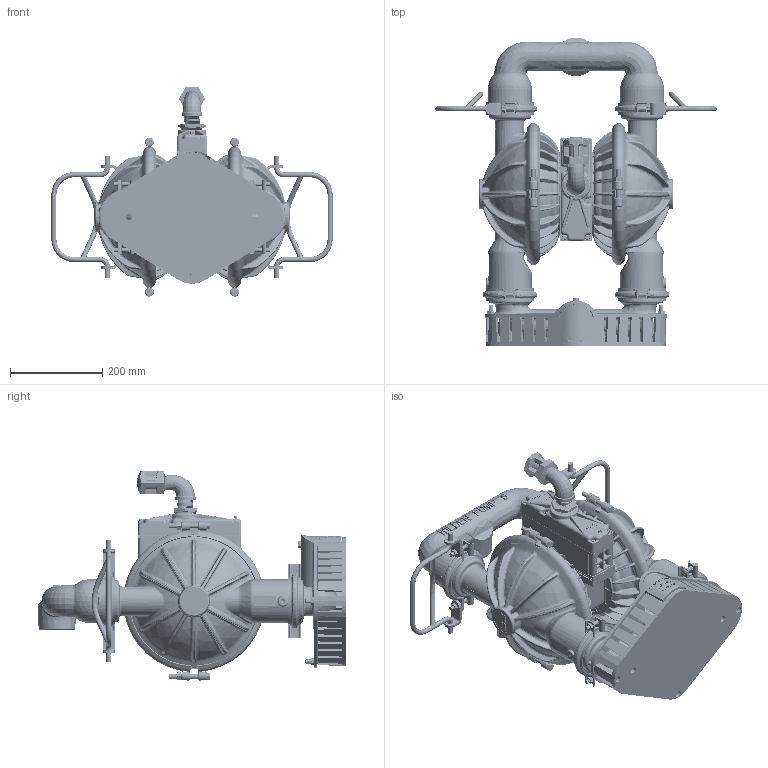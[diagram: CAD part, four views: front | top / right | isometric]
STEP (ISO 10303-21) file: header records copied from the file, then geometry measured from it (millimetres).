
FILE_DESCRIPTION (( 'STEP AP203' ), '1' );
FILE_NAME ('ps08_stallion_al_dc_cb_top step.STEP', '2022-07-05T08:31:40', ( '' ), ( '' ), 'SwSTEP 2.0', 'SolidWorks 2019', '' );
FILE_SCHEMA (( 'CONFIG_CONTROL_DESIGN' ));
Products named in the file (1): ps08_stallion_al_dc_cb_top step
Bounding box: 611.11 x 670.84 x 454.56 mm (x, y, z)
Volume: 23550112.3 mm3; surface area: 1776843 mm2
Topology: 1 solids, 1 shells, 12255 faces, 32379 edges, 20429 vertices
Faces by surface type: plane 6704, bspline 2603, cylinder 1228, torus 725, cone 709, sphere 286
Entity records: 813518 total; most frequent: CARTESIAN_POINT 535469, ORIENTED_EDGE 64672, DIRECTION 48106, EDGE_CURVE 32336, VERTEX_POINT 20417, LINE 16648, VECTOR 16648, AXIS2_PLACEMENT_3D 15729
